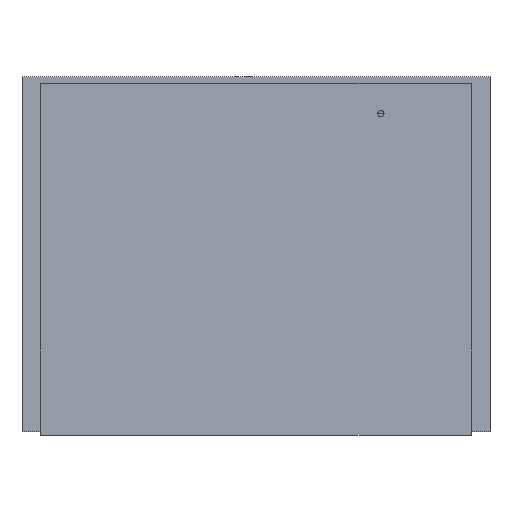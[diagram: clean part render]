
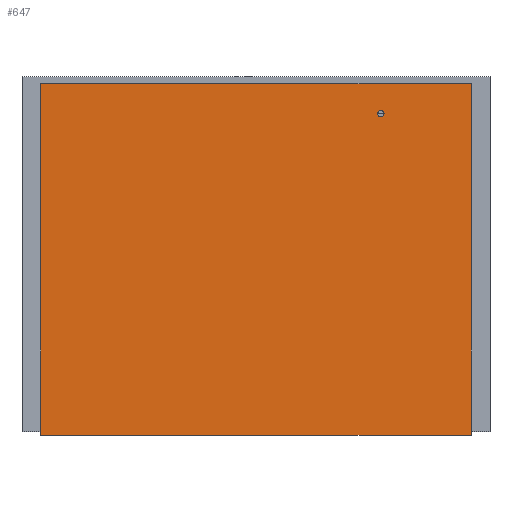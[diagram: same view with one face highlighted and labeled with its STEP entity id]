
A CAD part, left-side view. The second image highlights one B-rep face of the part: STEP entity #647.
In plain terms, the highlighted free-form (B-spline) face has degree [3, 3] with [10, 4] control points.
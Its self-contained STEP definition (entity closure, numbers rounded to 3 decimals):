
#647=ADVANCED_FACE('',(#902),#3008,.T.);
#902=FACE_OUTER_BOUND('',#1158,.T.);
#1158=EDGE_LOOP('',(#1796,#1797,#1798,#1799));
#1796=ORIENTED_EDGE('',*,*,#2440,.F.);
#1797=ORIENTED_EDGE('',*,*,#2441,.T.);
#1798=ORIENTED_EDGE('',*,*,#2442,.T.);
#1799=ORIENTED_EDGE('',*,*,#2443,.F.);
#2440=EDGE_CURVE('',#2808,#2809,#3511,.T.);
#2441=EDGE_CURVE('',#2808,#2810,#3512,.T.);
#2442=EDGE_CURVE('',#2810,#2811,#3513,.T.);
#2443=EDGE_CURVE('',#2809,#2811,#3514,.T.);
#2808=VERTEX_POINT('',#12388);
#2809=VERTEX_POINT('',#12389);
#2810=VERTEX_POINT('',#12390);
#2811=VERTEX_POINT('',#12391);
#3008=B_SPLINE_SURFACE_WITH_KNOTS('',3,3,((#12284,#12285,#12286,#12287),
(#12288,#12289,#12290,#12291),(#12292,#12293,#12294,#12295),(#12296,#12297,
#12298,#12299),(#12300,#12301,#12302,#12303),(#12304,#12305,#12306,#12307),
(#12308,#12309,#12310,#12311),(#12312,#12313,#12314,#12315),(#12316,#12317,
#12318,#12319),(#12320,#12321,#12322,#12323)),.UNSPECIFIED.,.F.,.F.,.F.,
(4,3,3,4),(4,4),(0.,0.333,0.667,1.),(0.,1.),.UNSPECIFIED.);
#3511=B_SPLINE_CURVE_WITH_KNOTS('',3,(#12186,#12187,#12188,#12189),.UNSPECIFIED.,
.F.,.F.,(4,4),(0.,1.),.UNSPECIFIED.);
#3512=B_SPLINE_CURVE_WITH_KNOTS('',3,(#12190,#12191,#12192,#12193,#12194,
#12195,#12196,#12197,#12198,#12199),.UNSPECIFIED.,.F.,.F.,(4,3,3,4),(0.,
0.333,0.667,1.),.UNSPECIFIED.);
#3513=B_SPLINE_CURVE_WITH_KNOTS('',1,(#12200,#12201),.UNSPECIFIED.,.F.,.F.,
(2,2),(0.,1.),.UNSPECIFIED.);
#3514=B_SPLINE_CURVE_WITH_KNOTS('',3,(#12202,#12203,#12204,#12205,#12206,
#12207,#12208,#12209,#12210,#12211),.UNSPECIFIED.,.F.,.F.,(4,3,3,4),(0.,
0.333,0.667,1.),.UNSPECIFIED.);
#12186=CARTESIAN_POINT('',(-547.837,-273.557,0.046));
#12187=CARTESIAN_POINT('',(-547.837,-91.057,0.046));
#12188=CARTESIAN_POINT('',(-547.837,91.443,0.046));
#12189=CARTESIAN_POINT('',(-547.837,273.943,0.046));
#12190=CARTESIAN_POINT('',(-547.837,-273.557,0.046));
#12191=CARTESIAN_POINT('',(-547.837,-273.557,49.712));
#12192=CARTESIAN_POINT('',(-547.837,-273.557,99.379));
#12193=CARTESIAN_POINT('',(-547.837,-273.557,149.046));
#12194=CARTESIAN_POINT('',(-547.837,-273.557,198.712));
#12195=CARTESIAN_POINT('',(-547.837,-273.557,248.379));
#12196=CARTESIAN_POINT('',(-547.837,-273.557,298.046));
#12197=CARTESIAN_POINT('',(-547.837,-273.557,347.712));
#12198=CARTESIAN_POINT('',(-547.837,-273.557,397.379));
#12199=CARTESIAN_POINT('',(-547.837,-273.557,447.046));
#12200=CARTESIAN_POINT('',(-547.837,-273.557,447.046));
#12201=CARTESIAN_POINT('',(-547.837,273.943,447.046));
#12202=CARTESIAN_POINT('',(-547.837,273.943,0.046));
#12203=CARTESIAN_POINT('',(-547.837,273.943,49.712));
#12204=CARTESIAN_POINT('',(-547.837,273.943,99.379));
#12205=CARTESIAN_POINT('',(-547.837,273.943,149.046));
#12206=CARTESIAN_POINT('',(-547.837,273.943,198.712));
#12207=CARTESIAN_POINT('',(-547.837,273.943,248.379));
#12208=CARTESIAN_POINT('',(-547.837,273.943,298.046));
#12209=CARTESIAN_POINT('',(-547.837,273.943,347.712));
#12210=CARTESIAN_POINT('',(-547.837,273.943,397.379));
#12211=CARTESIAN_POINT('',(-547.837,273.943,447.046));
#12284=CARTESIAN_POINT('',(-547.837,-273.557,0.046));
#12285=CARTESIAN_POINT('',(-547.837,-91.057,0.046));
#12286=CARTESIAN_POINT('',(-547.837,91.443,0.046));
#12287=CARTESIAN_POINT('',(-547.837,273.943,0.046));
#12288=CARTESIAN_POINT('',(-547.837,-273.557,49.712));
#12289=CARTESIAN_POINT('',(-547.837,-91.057,49.712));
#12290=CARTESIAN_POINT('',(-547.837,91.443,49.712));
#12291=CARTESIAN_POINT('',(-547.837,273.943,49.712));
#12292=CARTESIAN_POINT('',(-547.837,-273.557,99.379));
#12293=CARTESIAN_POINT('',(-547.837,-91.057,99.379));
#12294=CARTESIAN_POINT('',(-547.837,91.443,99.379));
#12295=CARTESIAN_POINT('',(-547.837,273.943,99.379));
#12296=CARTESIAN_POINT('',(-547.837,-273.557,149.046));
#12297=CARTESIAN_POINT('',(-547.837,-91.057,149.046));
#12298=CARTESIAN_POINT('',(-547.837,91.443,149.046));
#12299=CARTESIAN_POINT('',(-547.837,273.943,149.046));
#12300=CARTESIAN_POINT('',(-547.837,-273.557,198.712));
#12301=CARTESIAN_POINT('',(-547.837,-91.057,198.712));
#12302=CARTESIAN_POINT('',(-547.837,91.443,198.712));
#12303=CARTESIAN_POINT('',(-547.837,273.943,198.712));
#12304=CARTESIAN_POINT('',(-547.837,-273.557,248.379));
#12305=CARTESIAN_POINT('',(-547.837,-91.057,248.379));
#12306=CARTESIAN_POINT('',(-547.837,91.443,248.379));
#12307=CARTESIAN_POINT('',(-547.837,273.943,248.379));
#12308=CARTESIAN_POINT('',(-547.837,-273.557,298.046));
#12309=CARTESIAN_POINT('',(-547.837,-91.057,298.046));
#12310=CARTESIAN_POINT('',(-547.837,91.443,298.046));
#12311=CARTESIAN_POINT('',(-547.837,273.943,298.046));
#12312=CARTESIAN_POINT('',(-547.837,-273.557,347.712));
#12313=CARTESIAN_POINT('',(-547.837,-91.057,347.712));
#12314=CARTESIAN_POINT('',(-547.837,91.443,347.712));
#12315=CARTESIAN_POINT('',(-547.837,273.943,347.712));
#12316=CARTESIAN_POINT('',(-547.837,-273.557,397.379));
#12317=CARTESIAN_POINT('',(-547.837,-91.057,397.379));
#12318=CARTESIAN_POINT('',(-547.837,91.443,397.379));
#12319=CARTESIAN_POINT('',(-547.837,273.943,397.379));
#12320=CARTESIAN_POINT('',(-547.837,-273.557,447.046));
#12321=CARTESIAN_POINT('',(-547.837,-91.057,447.046));
#12322=CARTESIAN_POINT('',(-547.837,91.443,447.046));
#12323=CARTESIAN_POINT('',(-547.837,273.943,447.046));
#12388=CARTESIAN_POINT('',(-547.837,-273.557,0.046));
#12389=CARTESIAN_POINT('',(-547.837,273.943,0.046));
#12390=CARTESIAN_POINT('',(-547.837,-273.557,447.046));
#12391=CARTESIAN_POINT('',(-547.837,273.943,447.046));
